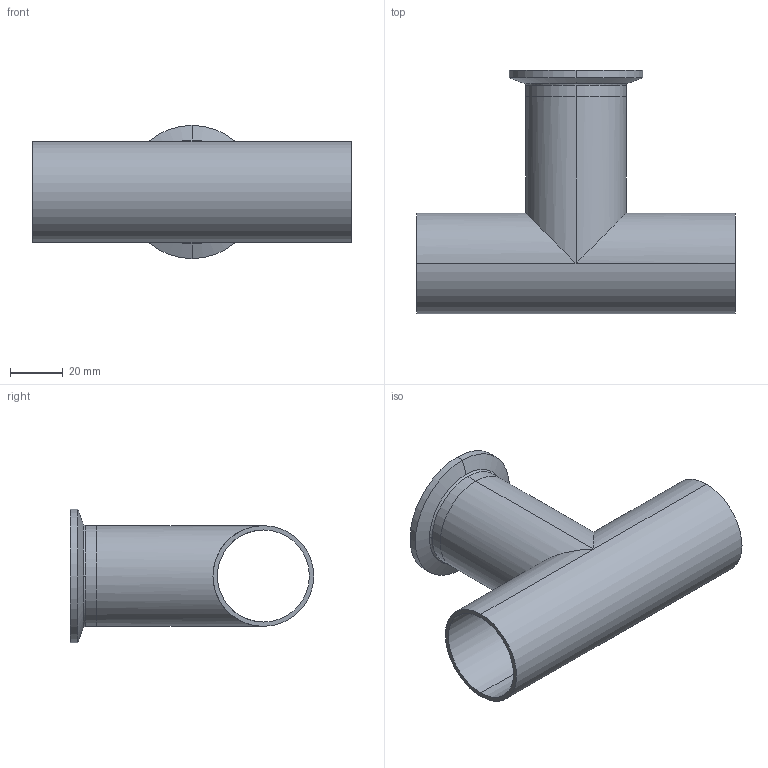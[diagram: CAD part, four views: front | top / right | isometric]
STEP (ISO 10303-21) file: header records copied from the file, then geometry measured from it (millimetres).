
FILE_DESCRIPTION (( 'STEP AP214' ), '1' );
FILE_NAME ('TE7WWC6L1.5-...STEP', '2016-05-23T05:36:23', ( 'eran' ), ( '' ), 'SwSTEP 2.0', 'SolidWorks 2016', '' );
FILE_SCHEMA (( 'AUTOMOTIVE_DESIGN' ));
Length unit declared in the file: millimetre
Products named in the file (1): TE7WWC6L1.5-..
Bounding box: 120.6 x 92.08 x 50.39 mm (x, y, z)
Volume: 35364.2 mm3; surface area: 41605.1 mm2
Topology: 2 solids, 2 shells, 38 faces, 92 edges, 58 vertices
Faces by surface type: cylinder 16, bspline 10, plane 6, cone 6
Entity records: 1810 total; most frequent: CARTESIAN_POINT 875, DIRECTION 198, ORIENTED_EDGE 184, EDGE_CURVE 92, AXIS2_PLACEMENT_3D 87, CIRCLE 58, VERTEX_POINT 58, EDGE_LOOP 44
